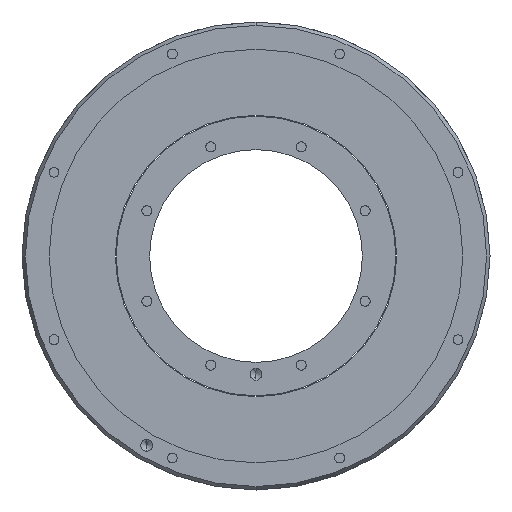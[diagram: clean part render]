
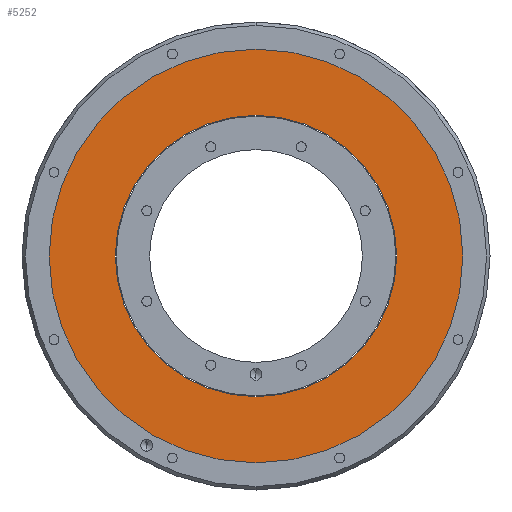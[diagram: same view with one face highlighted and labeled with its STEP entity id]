
A CAD part, front view. The second image highlights one B-rep face of the part: STEP entity #5252.
In plain terms, the highlighted planar face has unit normal (0, -1, 0).
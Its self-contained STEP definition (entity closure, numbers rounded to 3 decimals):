
#11 = ORIENTED_EDGE ( 'NONE', *, *, #4665, .F. ) ;
#132 = CARTESIAN_POINT ( 'NONE',  ( 0., 1., 0. ) ) ;
#228 = ORIENTED_EDGE ( 'NONE', *, *, #1001, .T. ) ;
#762 = FACE_OUTER_BOUND ( 'NONE', #5047, .T. ) ;
#790 = DIRECTION ( 'NONE',  ( 0., -1., 0. ) ) ;
#810 = CARTESIAN_POINT ( 'NONE',  ( 0., 1., -59.5 ) ) ;
#826 = CARTESIAN_POINT ( 'NONE',  ( 0., 1., 0. ) ) ;
#833 = DIRECTION ( 'NONE',  ( 0., 0., -1. ) ) ;
#873 = AXIS2_PLACEMENT_3D ( 'NONE', #826, #790, #1235 ) ;
#1001 = EDGE_CURVE ( 'NONE', #4336, #1792, #3663, .T. ) ;
#1130 = CARTESIAN_POINT ( 'NONE',  ( 0., 1., 0. ) ) ;
#1154 = AXIS2_PLACEMENT_3D ( 'NONE', #1130, #5017, #1967 ) ;
#1235 = DIRECTION ( 'NONE',  ( 0., 0., -1. ) ) ;
#1570 = EDGE_CURVE ( 'NONE', #1792, #4336, #2705, .T. ) ;
#1694 = CARTESIAN_POINT ( 'NONE',  ( 0., 1., 0. ) ) ;
#1792 = VERTEX_POINT ( 'NONE', #2281 ) ;
#1967 = DIRECTION ( 'NONE',  ( 0., 0., -1. ) ) ;
#2054 = VERTEX_POINT ( 'NONE', #810 ) ;
#2133 = DIRECTION ( 'NONE',  ( 0., -1., 0. ) ) ;
#2281 = CARTESIAN_POINT ( 'NONE',  ( 0., 1., 87.5 ) ) ;
#2705 = CIRCLE ( 'NONE', #873, 87.5 ) ;
#3031 = ORIENTED_EDGE ( 'NONE', *, *, #5426, .F. ) ;
#3127 = DIRECTION ( 'NONE',  ( 0., 0., -1. ) ) ;
#3263 = CARTESIAN_POINT ( 'NONE',  ( 0., 1., 59.5 ) ) ;
#3266 = EDGE_LOOP ( 'NONE', ( #11, #3031 ) ) ;
#3282 = AXIS2_PLACEMENT_3D ( 'NONE', #132, #4897, #3631 ) ;
#3327 = AXIS2_PLACEMENT_3D ( 'NONE', #4852, #5286, #3127 ) ;
#3631 = DIRECTION ( 'NONE',  ( 0., 0., -1. ) ) ;
#3663 = CIRCLE ( 'NONE', #3989, 87.5 ) ;
#3898 = ORIENTED_EDGE ( 'NONE', *, *, #1570, .T. ) ;
#3989 = AXIS2_PLACEMENT_3D ( 'NONE', #1694, #2133, #833 ) ;
#4305 = VERTEX_POINT ( 'NONE', #3263 ) ;
#4336 = VERTEX_POINT ( 'NONE', #4690 ) ;
#4428 = PLANE ( 'NONE',  #3327 ) ;
#4665 = EDGE_CURVE ( 'NONE', #2054, #4305, #5208, .T. ) ;
#4690 = CARTESIAN_POINT ( 'NONE',  ( 0., 1., -87.5 ) ) ;
#4852 = CARTESIAN_POINT ( 'NONE',  ( 59.5, 1., 0. ) ) ;
#4897 = DIRECTION ( 'NONE',  ( 0., -1., 0. ) ) ;
#5017 = DIRECTION ( 'NONE',  ( 0., -1., 0. ) ) ;
#5047 = EDGE_LOOP ( 'NONE', ( #228, #3898 ) ) ;
#5133 = CIRCLE ( 'NONE', #1154, 59.5 ) ;
#5208 = CIRCLE ( 'NONE', #3282, 59.5 ) ;
#5252 = ADVANCED_FACE ( 'NONE', ( #762, #5268 ), #4428, .T. ) ;
#5268 = FACE_BOUND ( 'NONE', #3266, .T. ) ;
#5286 = DIRECTION ( 'NONE',  ( 0., -1., 0. ) ) ;
#5426 = EDGE_CURVE ( 'NONE', #4305, #2054, #5133, .T. ) ;
